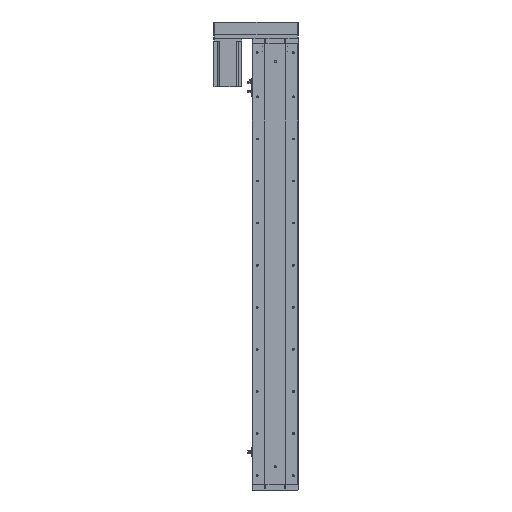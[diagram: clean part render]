
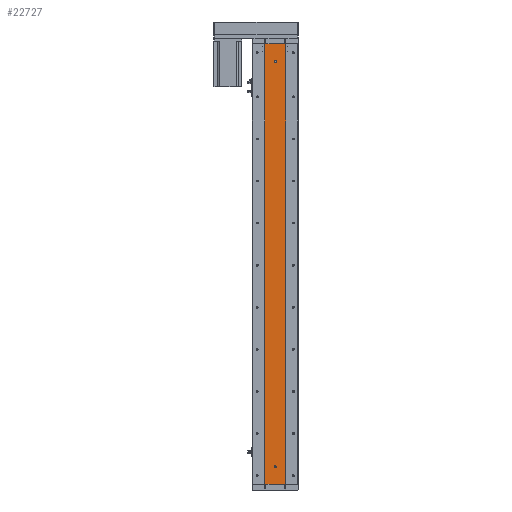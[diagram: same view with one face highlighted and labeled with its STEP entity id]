
A CAD part, left-side view. The second image highlights one B-rep face of the part: STEP entity #22727.
In plain terms, the highlighted planar face has unit normal (-1, 0, 0).
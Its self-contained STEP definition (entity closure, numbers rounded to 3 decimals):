
#652 = LINE ( 'NONE', #34466, #30551 ) ;
#713 = AXIS2_PLACEMENT_3D ( 'NONE', #15769, #43022, #19723 ) ;
#1217 = DIRECTION ( 'NONE',  ( -1., 0., 0. ) ) ;
#3931 = DIRECTION ( 'NONE',  ( 0., -1., 0. ) ) ;
#4650 = CARTESIAN_POINT ( 'NONE',  ( -24.994, 0., 1206. ) ) ;
#5451 = CARTESIAN_POINT ( 'NONE',  ( -24.994, 29.785, 0. ) ) ;
#6411 = LINE ( 'NONE', #47796, #21663 ) ;
#6748 = ORIENTED_EDGE ( 'NONE', *, *, #7161, .F. ) ;
#7161 = EDGE_CURVE ( 'NONE', #12335, #10630, #44660, .T. ) ;
#8336 = CARTESIAN_POINT ( 'NONE',  ( -24.994, 0., 53. ) ) ;
#8606 = DIRECTION ( 'NONE',  ( 0., 0., 1. ) ) ;
#9558 = CARTESIAN_POINT ( 'NONE',  ( -24.994, 29.785, 1256. ) ) ;
#10429 = AXIS2_PLACEMENT_3D ( 'NONE', #24623, #1217, #28535 ) ;
#10630 = VERTEX_POINT ( 'NONE', #11912 ) ;
#11828 = CARTESIAN_POINT ( 'NONE',  ( -24.994, 0., 47. ) ) ;
#11912 = CARTESIAN_POINT ( 'NONE',  ( -24.994, 0., 1203. ) ) ;
#12335 = VERTEX_POINT ( 'NONE', #16677 ) ;
#12819 = CARTESIAN_POINT ( 'NONE',  ( -24.994, 29.785, 1256. ) ) ;
#13476 = DIRECTION ( 'NONE',  ( 0., 0., -1. ) ) ;
#13953 = CIRCLE ( 'NONE', #21103, 3. ) ;
#14707 = EDGE_LOOP ( 'NONE', ( #47490, #35583, #23467, #16182 ) ) ;
#14868 = VERTEX_POINT ( 'NONE', #12819 ) ;
#15769 = CARTESIAN_POINT ( 'NONE',  ( -24.994, 0., 1206. ) ) ;
#16182 = ORIENTED_EDGE ( 'NONE', *, *, #50038, .T. ) ;
#16451 = AXIS2_PLACEMENT_3D ( 'NONE', #42099, #18821, #46035 ) ;
#16677 = CARTESIAN_POINT ( 'NONE',  ( -24.994, 0., 1209. ) ) ;
#17198 = PLANE ( 'NONE',  #27711 ) ;
#18821 = DIRECTION ( 'NONE',  ( -1., 0., 0. ) ) ;
#19431 = CARTESIAN_POINT ( 'NONE',  ( -24.994, 29.785, 0. ) ) ;
#19514 = EDGE_CURVE ( 'NONE', #48634, #28367, #20449, .T. ) ;
#19723 = DIRECTION ( 'NONE',  ( 0., 0., 1. ) ) ;
#20449 = LINE ( 'NONE', #19431, #39965 ) ;
#21103 = AXIS2_PLACEMENT_3D ( 'NONE', #4650, #31923, #8606 ) ;
#21663 = VECTOR ( 'NONE', #24295, 1000. ) ;
#22326 = EDGE_LOOP ( 'NONE', ( #46785, #44407 ) ) ;
#22528 = CIRCLE ( 'NONE', #16451, 3. ) ;
#22727 = ADVANCED_FACE ( 'NONE', ( #49351, #40203, #48089 ), #17198, .F. ) ;
#23342 = DIRECTION ( 'NONE',  ( 0., -1., 0. ) ) ;
#23467 = ORIENTED_EDGE ( 'NONE', *, *, #40300, .F. ) ;
#24295 = DIRECTION ( 'NONE',  ( 0., 0., -1. ) ) ;
#24623 = CARTESIAN_POINT ( 'NONE',  ( -24.994, 0., 50. ) ) ;
#25557 = VERTEX_POINT ( 'NONE', #11828 ) ;
#27711 = AXIS2_PLACEMENT_3D ( 'NONE', #9558, #36757, #13476 ) ;
#28367 = VERTEX_POINT ( 'NONE', #43622 ) ;
#28535 = DIRECTION ( 'NONE',  ( 0., 0., 1. ) ) ;
#28866 = VERTEX_POINT ( 'NONE', #8336 ) ;
#29076 = EDGE_LOOP ( 'NONE', ( #6748, #44654 ) ) ;
#30551 = VECTOR ( 'NONE', #38391, 1000. ) ;
#31190 = CARTESIAN_POINT ( 'NONE',  ( -24.994, 29.785, 1256. ) ) ;
#31923 = DIRECTION ( 'NONE',  ( -1., 0., 0. ) ) ;
#33744 = CARTESIAN_POINT ( 'NONE',  ( -24.994, -29.785, 1256. ) ) ;
#34466 = CARTESIAN_POINT ( 'NONE',  ( -24.994, 29.785, 1256. ) ) ;
#35404 = EDGE_CURVE ( 'NONE', #38977, #28367, #6411, .T. ) ;
#35583 = ORIENTED_EDGE ( 'NONE', *, *, #35404, .F. ) ;
#36757 = DIRECTION ( 'NONE',  ( 1., 0., 0. ) ) ;
#37210 = LINE ( 'NONE', #31190, #46379 ) ;
#38391 = DIRECTION ( 'NONE',  ( 0., 0., -1. ) ) ;
#38977 = VERTEX_POINT ( 'NONE', #33744 ) ;
#39965 = VECTOR ( 'NONE', #23342, 1000. ) ;
#40203 = FACE_BOUND ( 'NONE', #22326, .T. ) ;
#40300 = EDGE_CURVE ( 'NONE', #14868, #38977, #37210, .T. ) ;
#42099 = CARTESIAN_POINT ( 'NONE',  ( -24.994, 0., 50. ) ) ;
#43022 = DIRECTION ( 'NONE',  ( -1., 0., 0. ) ) ;
#43036 = EDGE_CURVE ( 'NONE', #10630, #12335, #13953, .T. ) ;
#43622 = CARTESIAN_POINT ( 'NONE',  ( -24.994, -29.785, 0. ) ) ;
#44155 = CIRCLE ( 'NONE', #10429, 3. ) ;
#44407 = ORIENTED_EDGE ( 'NONE', *, *, #44749, .F. ) ;
#44654 = ORIENTED_EDGE ( 'NONE', *, *, #43036, .F. ) ;
#44660 = CIRCLE ( 'NONE', #713, 3. ) ;
#44749 = EDGE_CURVE ( 'NONE', #25557, #28866, #44155, .T. ) ;
#46035 = DIRECTION ( 'NONE',  ( 0., 0., 1. ) ) ;
#46379 = VECTOR ( 'NONE', #3931, 1000. ) ;
#46785 = ORIENTED_EDGE ( 'NONE', *, *, #48293, .F. ) ;
#47490 = ORIENTED_EDGE ( 'NONE', *, *, #19514, .T. ) ;
#47796 = CARTESIAN_POINT ( 'NONE',  ( -24.994, -29.785, 1256. ) ) ;
#48089 = FACE_OUTER_BOUND ( 'NONE', #14707, .T. ) ;
#48293 = EDGE_CURVE ( 'NONE', #28866, #25557, #22528, .T. ) ;
#48634 = VERTEX_POINT ( 'NONE', #5451 ) ;
#49351 = FACE_BOUND ( 'NONE', #29076, .T. ) ;
#50038 = EDGE_CURVE ( 'NONE', #14868, #48634, #652, .T. ) ;
